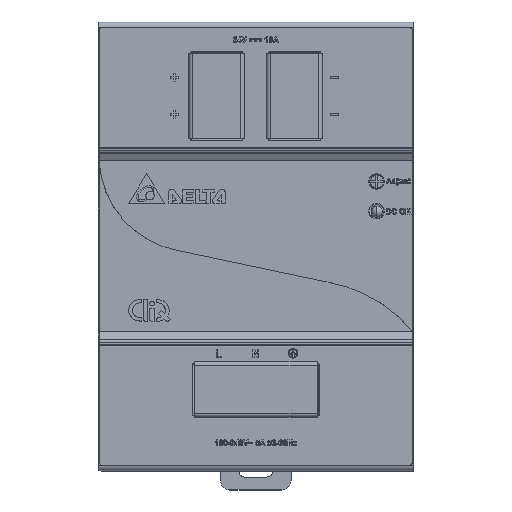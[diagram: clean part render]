
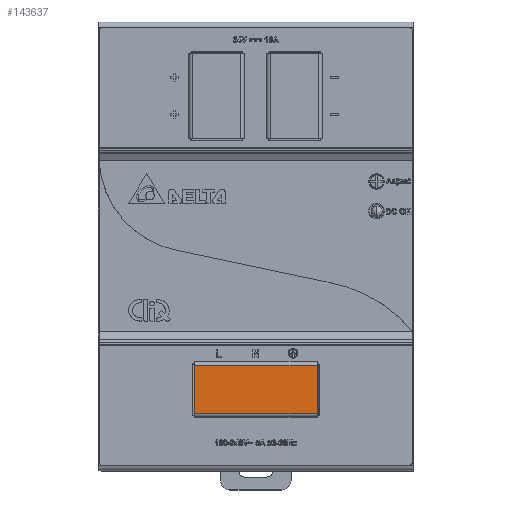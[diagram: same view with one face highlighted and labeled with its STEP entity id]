
A CAD part, top view. The second image highlights one B-rep face of the part: STEP entity #143637.
In plain terms, the highlighted planar face has unit normal (0, 0, 1) as drawn and (0, 1, 0) by its records, which use the part's own axes.
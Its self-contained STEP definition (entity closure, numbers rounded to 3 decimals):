
#141758=DIRECTION('',(-1.,0.,0.));
#141759=VECTOR('',#141758,13.);
#141760=CARTESIAN_POINT('',(6.5,4.9,0.));
#141761=LINE('',#141760,#141759);
#141943=DIRECTION('',(-1.,0.,0.));
#141944=VECTOR('',#141943,13.);
#141945=CARTESIAN_POINT('',(6.5,4.9,-33.));
#141946=LINE('',#141945,#141944);
#142671=DIRECTION('',(0.,0.,-1.));
#142672=VECTOR('',#142671,33.);
#142673=CARTESIAN_POINT('',(-6.5,4.9,0.));
#142674=LINE('',#142673,#142672);
#142678=DIRECTION('',(0.,0.,-1.));
#142679=VECTOR('',#142678,33.);
#142680=CARTESIAN_POINT('',(6.5,4.9,0.));
#142681=LINE('',#142680,#142679);
#142733=CARTESIAN_POINT('',(-6.5,4.9,-33.));
#142735=VERTEX_POINT('',#142733);
#142736=CARTESIAN_POINT('',(-6.5,4.9,0.));
#142737=VERTEX_POINT('',#142736);
#142740=CARTESIAN_POINT('',(6.5,4.9,0.));
#142741=VERTEX_POINT('',#142740);
#142742=CARTESIAN_POINT('',(6.5,4.9,-33.));
#142743=VERTEX_POINT('',#142742);
#143626=CARTESIAN_POINT('',(7.5,4.9,0.));
#143627=DIRECTION('',(0.,1.,0.));
#143628=DIRECTION('',(-1.,0.,0.));
#143629=AXIS2_PLACEMENT_3D('',#143626,#143627,#143628);
#143630=PLANE('',#143629);
#143631=ORIENTED_EDGE('',*,*,#142947,.T.);
#143632=ORIENTED_EDGE('',*,*,#142985,.F.);
#143633=ORIENTED_EDGE('',*,*,#143621,.F.);
#143634=ORIENTED_EDGE('',*,*,#142911,.T.);
#143635=EDGE_LOOP('',(#143631,#143632,#143633,#143634));
#143636=FACE_OUTER_BOUND('',#143635,.F.);
#142911=EDGE_CURVE('',#142741,#142737,#141761,.T.);
#142947=EDGE_CURVE('',#142737,#142735,#142674,.T.);
#142985=EDGE_CURVE('',#142743,#142735,#141946,.T.);
#143621=EDGE_CURVE('',#142741,#142743,#142681,.T.);
#143637=ADVANCED_FACE('',(#143636),#143630,.T.);
